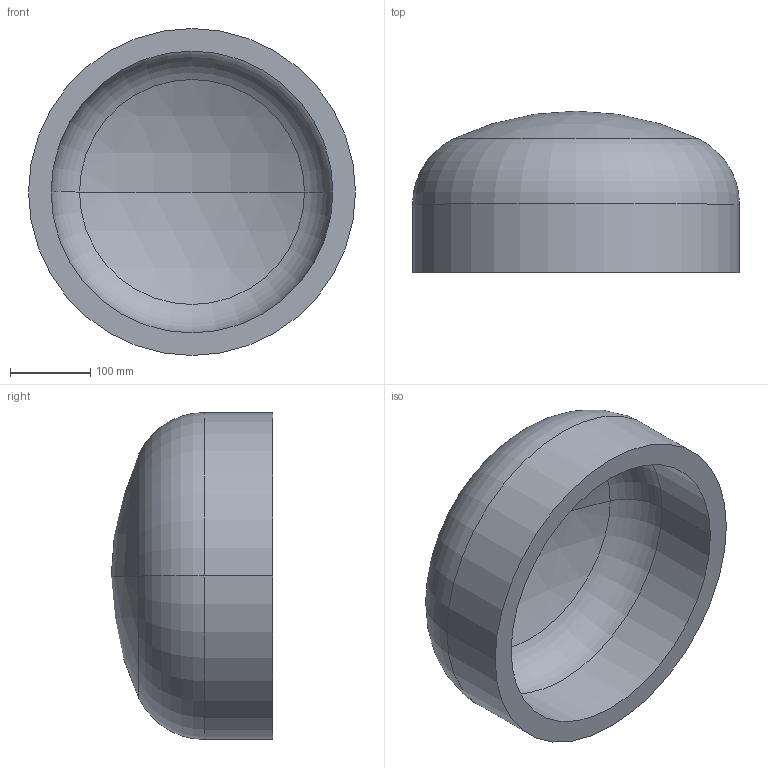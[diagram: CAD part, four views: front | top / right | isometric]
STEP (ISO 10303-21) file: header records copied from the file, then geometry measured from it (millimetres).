
FILE_DESCRIPTION (( 'STEP AP203' ), '1' );
FILE_NAME ('DIN 28013 Korbbogenform_-_Boden DIN 28013 - 406,4 x 85 - I - s=28.step', '2016-07-01T07:50:02', ( '' ), ( '' ), 'SwSTEP 2.0', 'SolidWorks 2013', '' );
FILE_SCHEMA (( 'CONFIG_CONTROL_DESIGN' ));
Length unit declared in the file: millimetre
Products named in the file (1): DIN 28013 Korbbogenform_-_Boden DIN 28013 - 406,4 x 85 - I - s=28
Bounding box: 406.4 x 200.61 x 406.4 mm (x, y, z)
Volume: 7430659.6 mm3; surface area: 565689.1 mm2
Topology: 1 solids, 1 shells, 13 faces, 24 edges, 14 vertices
Faces by surface type: torus 4, cylinder 4, sphere 4, plane 1
Entity records: 407 total; most frequent: DIRECTION 72, CARTESIAN_POINT 52, ORIENTED_EDGE 48, AXIS2_PLACEMENT_3D 34, EDGE_CURVE 24, CIRCLE 20, EDGE_LOOP 14, VERTEX_POINT 14
